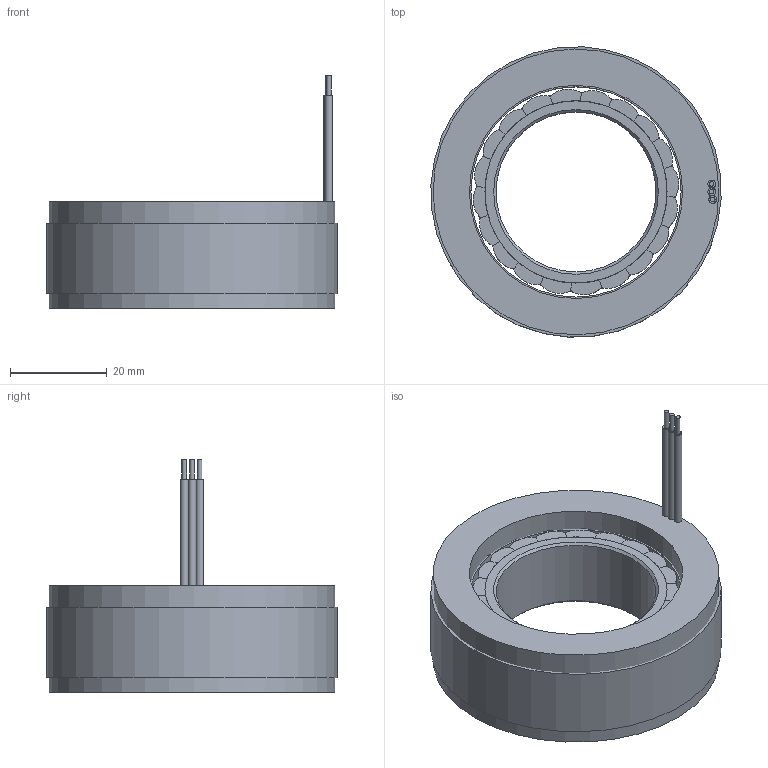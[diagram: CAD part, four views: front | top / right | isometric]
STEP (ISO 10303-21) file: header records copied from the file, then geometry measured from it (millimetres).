
FILE_DESCRIPTION (( 'STEP AP214' ), '1' );
FILE_NAME ('6013萇儂.STEP', '2024-01-17T06:58:53', ( '' ), ( '' ), 'SwSTEP 2.0', 'SolidWorks 2022', '' );
FILE_SCHEMA (( 'AUTOMOTIVE_DESIGN' ));
Length unit declared in the file: millimetre
Products named in the file (1): 6013萇儂
Bounding box: 59.91 x 59.91 x 48 mm (x, y, z)
Volume: 50679.3 mm3; surface area: 44773.4 mm2
Topology: 45 solids, 45 shells, 666 faces, 1711 edges, 1141 vertices
Faces by surface type: plane 370, cylinder 294, cone 2
Full cylindrical faces by diameter (mm): 0.94 x6, 1.6 x3, 33 x1, 37.6 x1, 43.4 x1, 44 x1, 57 x1, 59 x1, 60 x1
Entity records: 28100 total; most frequent: DIRECTION 3614, CARTESIAN_POINT 3495, ORIENTED_EDGE 3380, EDGE_CURVE 1690, AXIS2_PLACEMENT_3D 1257, VERTEX_POINT 1138, VECTOR 1100, LINE 1100
